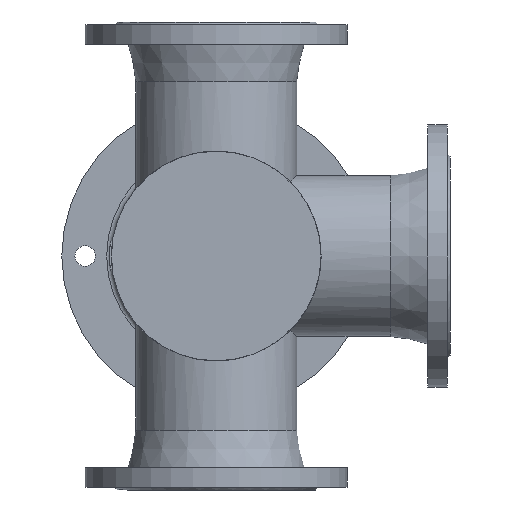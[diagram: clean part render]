
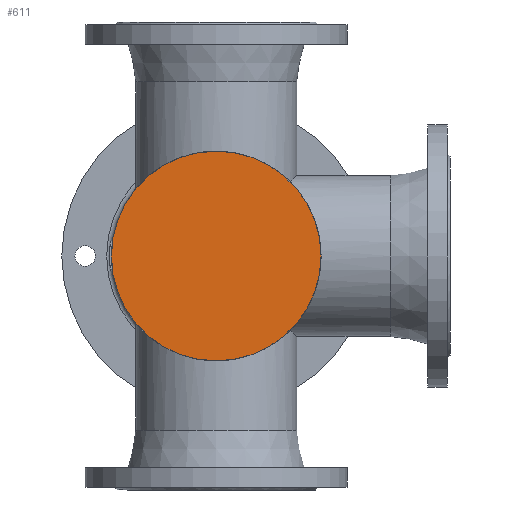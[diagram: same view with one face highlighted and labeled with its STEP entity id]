
A CAD part, front view. The second image highlights one B-rep face of the part: STEP entity #611.
In plain terms, the highlighted planar face has unit normal (0, -1, 0).
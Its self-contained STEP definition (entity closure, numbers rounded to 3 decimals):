
#611=ADVANCED_FACE('',(#1465),#1467,.T.);
#1465=FACE_BOUND('',#1466,.T.);
#1466=EDGE_LOOP('',(#2021));
#1467=PLANE('',#1468);
#1468=AXIS2_PLACEMENT_3D('',#1469,#1470,#1471);
#1469=CARTESIAN_POINT('',(0.,-190.,0.));
#1470=DIRECTION('',(0.,-1.,0.));
#1471=DIRECTION('',(0.,0.,-1.));
#2021=ORIENTED_EDGE('',*,*,#2284,.T.);
#2284=EDGE_CURVE('',#2665,#2665,#2666,.T.);
#2665=VERTEX_POINT('',#5806);
#2666=CIRCLE('',#5807,112.);
#5806=CARTESIAN_POINT('',(0.,-190.,-112.));
#5807=AXIS2_PLACEMENT_3D('',#5808,#5809,#5810);
#5808=CARTESIAN_POINT('',(0.,-190.,0.));
#5809=DIRECTION('',(0.,-1.,0.));
#5810=DIRECTION('',(0.,0.,-1.));
